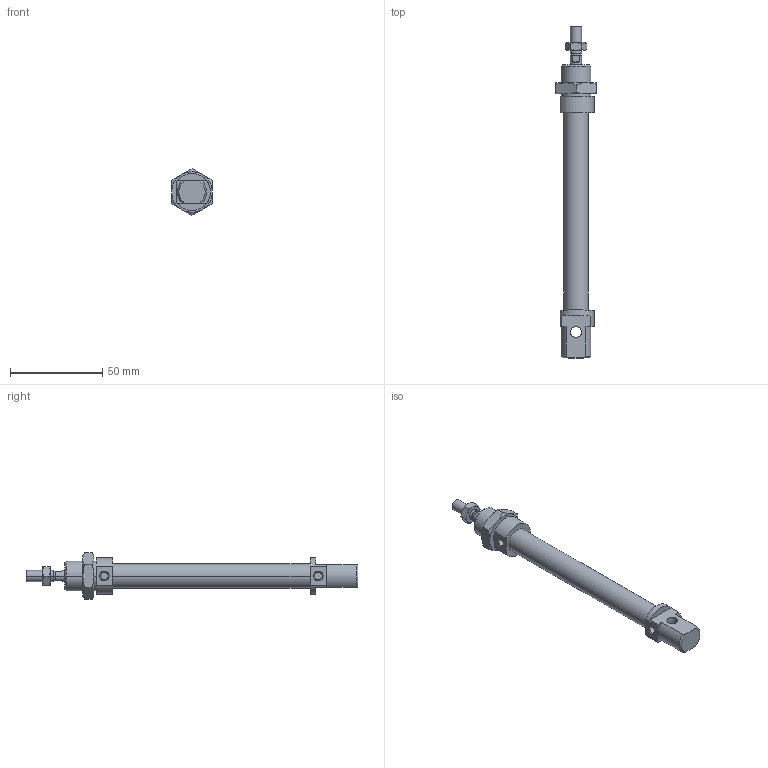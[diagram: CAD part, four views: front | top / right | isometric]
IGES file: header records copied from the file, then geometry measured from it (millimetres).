
Global section: file name: No Iges File Name specified; native system: Autodesk Inventor 2010; preprocessor: AutoDesk Inventor Iges Exporter R2010; author: rivolro1; date: 20090604.093142; units: millimetre
Bounding box: 22 x 180 x 25.4 mm (x, y, z)
Volume: 27694.9 mm3; surface area: 14142.9 mm2
Topology: 4 solids, 4 shells, 107 faces, 236 edges, 144 vertices
Faces by surface type: plane 39, cone 28, bspline 20, cylinder 14, revolution 6
